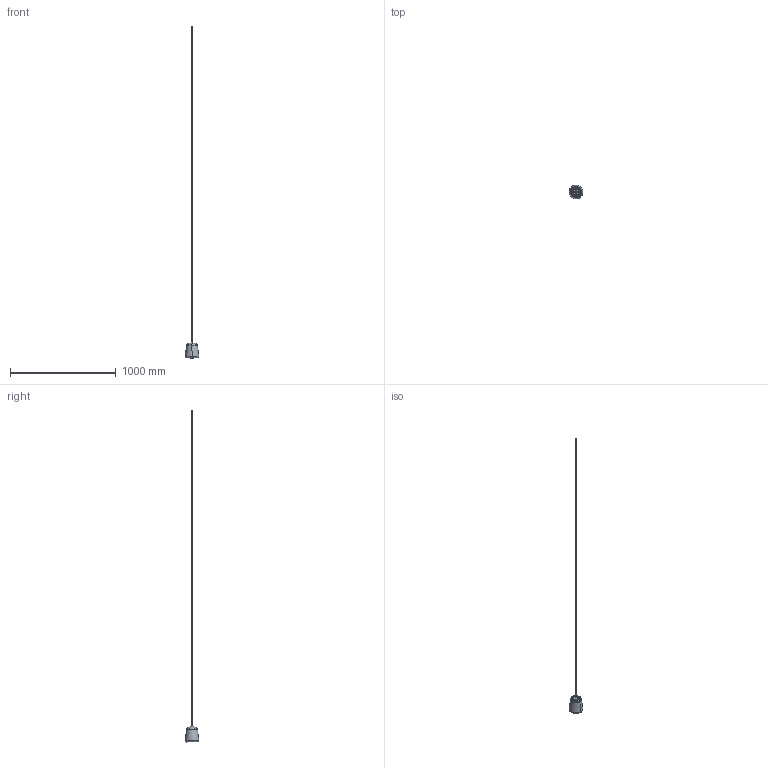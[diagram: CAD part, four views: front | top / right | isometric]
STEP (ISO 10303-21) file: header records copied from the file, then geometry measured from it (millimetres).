
FILE_DESCRIPTION(/* description */ (''),/* implementation_level */ '2;1');
FILE_NAME(/* name */ 'Material Pendant Keyshot',/* time_stamp */ '2015-12-14T15:07:01+01:00',/* author */ (''),/* organization */ (''),/* preprocessor_version */ 'ST-DEVELOPER v15',/* originating_system */ '',/* authorisation */ '');
FILE_SCHEMA (('AUTOMOTIVE_DESIGN'));
Length unit declared in the file: millimetre
Products named in the file (1): Document
Bounding box: 129.9 x 130.06 x 3136.02 mm (x, y, z)
Volume: 682055 mm3; surface area: 225789.8 mm2
Topology: 3 solids, 4 shells, 74 faces, 150 edges, 84 vertices
Faces by surface type: bspline 66, plane 8
Entity records: 3017 total; most frequent: CARTESIAN_POINT 2142, ORIENTED_EDGE 298, EDGE_CURVE 150, VERTEX_POINT 84, EDGE_LOOP 79, ADVANCED_FACE 74, FACE_OUTER_BOUND 74, B_SPLINE_CURVE_WITH_KNOTS 15
